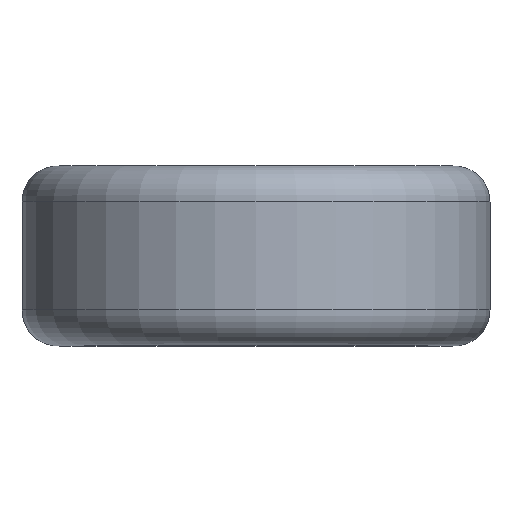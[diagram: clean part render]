
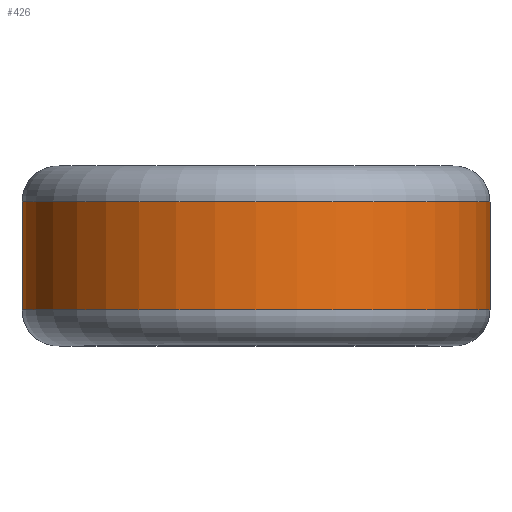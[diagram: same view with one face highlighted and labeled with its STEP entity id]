
A CAD part, top view. The second image highlights one B-rep face of the part: STEP entity #426.
In plain terms, the highlighted cylindrical face has radius 6.5 mm (diameter 13 mm), a full revolution.
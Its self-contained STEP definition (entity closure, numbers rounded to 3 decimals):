
#21=FACE_BOUND('',#104,.T.);
#22=FACE_BOUND('',#105,.T.);
#46=LINE('',#1240,#51);
#51=VECTOR('',#588,6.5);
#60=CYLINDRICAL_SURFACE('',#487,6.5);
#75=FACE_OUTER_BOUND('',#103,.T.);
#103=EDGE_LOOP('',(#329,#330,#331,#332,#333,#334,#335,#336));
#104=EDGE_LOOP('',(#337));
#105=EDGE_LOOP('',(#338));
#138=CIRCLE('',#488,6.5);
#139=CIRCLE('',#489,6.5);
#140=CIRCLE('',#490,6.5);
#141=CIRCLE('',#491,6.5);
#142=CIRCLE('',#492,6.5);
#143=CIRCLE('',#493,6.5);
#170=B_SPLINE_CURVE_WITH_KNOTS('',3,(#852,#853,#854,#855,#856,#857,#858,
#859,#860,#861,#862,#863,#864,#865,#866),.UNSPECIFIED.,.T.,.F.,(4,1,1,1,
1,1,1,1,1,1,1,1,4),(-0.323,-0.303,-0.284,
-0.245,-0.206,-0.187,-0.167,
-0.148,-0.138,-0.133,-0.129,
-0.09,-0.051),.UNSPECIFIED.);
#173=B_SPLINE_CURVE_WITH_KNOTS('',3,(#1247,#1248,#1249,#1250,#1251,#1252,
#1253,#1254,#1255,#1256,#1257,#1258,#1259,#1260,#1261),.UNSPECIFIED.,.T.,
 .F.,(4,1,1,1,1,1,1,1,1,1,1,1,4),(-0.323,-0.303,
-0.284,-0.245,-0.206,-0.187,
-0.167,-0.148,-0.129,-0.109,
-0.09,-0.07,-0.051),
 .UNSPECIFIED.);
#193=VERTEX_POINT('',#829);
#197=VERTEX_POINT('',#1233);
#198=VERTEX_POINT('',#1234);
#199=VERTEX_POINT('',#1236);
#200=VERTEX_POINT('',#1239);
#201=VERTEX_POINT('',#1241);
#202=VERTEX_POINT('',#1243);
#203=VERTEX_POINT('',#1246);
#244=EDGE_CURVE('',#193,#193,#170,.T.);
#247=EDGE_CURVE('',#197,#198,#138,.T.);
#248=EDGE_CURVE('',#199,#197,#139,.T.);
#249=EDGE_CURVE('',#198,#199,#140,.T.);
#250=EDGE_CURVE('',#198,#200,#46,.T.);
#251=EDGE_CURVE('',#201,#200,#141,.T.);
#252=EDGE_CURVE('',#202,#201,#142,.T.);
#253=EDGE_CURVE('',#200,#202,#143,.T.);
#254=EDGE_CURVE('',#203,#203,#173,.T.);
#329=ORIENTED_EDGE('',*,*,#247,.F.);
#330=ORIENTED_EDGE('',*,*,#248,.F.);
#331=ORIENTED_EDGE('',*,*,#249,.F.);
#332=ORIENTED_EDGE('',*,*,#250,.T.);
#333=ORIENTED_EDGE('',*,*,#251,.F.);
#334=ORIENTED_EDGE('',*,*,#252,.F.);
#335=ORIENTED_EDGE('',*,*,#253,.F.);
#336=ORIENTED_EDGE('',*,*,#250,.F.);
#337=ORIENTED_EDGE('',*,*,#254,.F.);
#338=ORIENTED_EDGE('',*,*,#244,.F.);
#426=ADVANCED_FACE('',(#75,#21,#22),#60,.T.);
#487=AXIS2_PLACEMENT_3D('',#1232,#580,#581);
#488=AXIS2_PLACEMENT_3D('',#1235,#582,#583);
#489=AXIS2_PLACEMENT_3D('',#1237,#584,#585);
#490=AXIS2_PLACEMENT_3D('',#1238,#586,#587);
#491=AXIS2_PLACEMENT_3D('',#1242,#589,#590);
#492=AXIS2_PLACEMENT_3D('',#1244,#591,#592);
#493=AXIS2_PLACEMENT_3D('',#1245,#593,#594);
#580=DIRECTION('center_axis',(0.,-1.,0.));
#581=DIRECTION('ref_axis',(1.,0.,0.));
#582=DIRECTION('center_axis',(0.,-1.,0.));
#583=DIRECTION('ref_axis',(-1.,0.,0.));
#584=DIRECTION('center_axis',(0.,-1.,0.));
#585=DIRECTION('ref_axis',(-1.,0.,0.));
#586=DIRECTION('center_axis',(0.,-1.,0.));
#587=DIRECTION('ref_axis',(-1.,0.,0.));
#588=DIRECTION('',(0.,1.,0.));
#589=DIRECTION('center_axis',(0.,1.,0.));
#590=DIRECTION('ref_axis',(-1.,0.,0.));
#591=DIRECTION('center_axis',(0.,1.,0.));
#592=DIRECTION('ref_axis',(-1.,0.,0.));
#593=DIRECTION('center_axis',(0.,1.,0.));
#594=DIRECTION('ref_axis',(-1.,0.,0.));
#829=CARTESIAN_POINT('',(-3.886,0.115,-5.21));
#852=CARTESIAN_POINT('Ctrl Pts',(-3.886,0.115,-5.21));
#853=CARTESIAN_POINT('Ctrl Pts',(-3.964,0.107,-5.152));
#854=CARTESIAN_POINT('Ctrl Pts',(-4.121,0.137,-5.03));
#855=CARTESIAN_POINT('Ctrl Pts',(-4.37,0.378,-4.815));
#856=CARTESIAN_POINT('Ctrl Pts',(-4.48,0.911,-4.708));
#857=CARTESIAN_POINT('Ctrl Pts',(-4.269,1.383,-4.907));
#858=CARTESIAN_POINT('Ctrl Pts',(-3.97,1.51,-5.149));
#859=CARTESIAN_POINT('Ctrl Pts',(-3.73,1.46,-5.325));
#860=CARTESIAN_POINT('Ctrl Pts',(-3.559,1.31,-5.439));
#861=CARTESIAN_POINT('Ctrl Pts',(-3.473,1.166,-5.494));
#862=CARTESIAN_POINT('Ctrl Pts',(-3.436,1.075,-5.517));
#863=CARTESIAN_POINT('Ctrl Pts',(-3.363,0.836,-5.562));
#864=CARTESIAN_POINT('Ctrl Pts',(-3.423,0.367,-5.529));
#865=CARTESIAN_POINT('Ctrl Pts',(-3.73,0.133,-5.327));
#866=CARTESIAN_POINT('Ctrl Pts',(-3.886,0.115,-5.21));
#1232=CARTESIAN_POINT('Origin',(0.,0.,
0.));
#1233=CARTESIAN_POINT('',(6.5,-1.5,0.));
#1234=CARTESIAN_POINT('',(-6.5,-1.5,0.));
#1235=CARTESIAN_POINT('Origin',(0.,-1.5,0.));
#1236=CARTESIAN_POINT('',(0.,-1.5,-6.5));
#1237=CARTESIAN_POINT('Origin',(0.,-1.5,0.));
#1238=CARTESIAN_POINT('Origin',(0.,-1.5,0.));
#1239=CARTESIAN_POINT('',(-6.5,1.5,0.));
#1240=CARTESIAN_POINT('',(-6.5,0.,0.));
#1241=CARTESIAN_POINT('',(6.5,1.5,0.));
#1242=CARTESIAN_POINT('Origin',(0.,1.5,0.));
#1243=CARTESIAN_POINT('',(0.,1.5,6.5));
#1244=CARTESIAN_POINT('Origin',(0.,1.5,0.));
#1245=CARTESIAN_POINT('Origin',(0.,1.5,0.));
#1246=CARTESIAN_POINT('',(3.886,-0.115,-5.21));
#1247=CARTESIAN_POINT('Ctrl Pts',(3.886,-0.115,-5.21));
#1248=CARTESIAN_POINT('Ctrl Pts',(3.964,-0.107,-5.152));
#1249=CARTESIAN_POINT('Ctrl Pts',(4.121,-0.137,-5.03));
#1250=CARTESIAN_POINT('Ctrl Pts',(4.37,-0.378,-4.815));
#1251=CARTESIAN_POINT('Ctrl Pts',(4.482,-0.912,-4.707));
#1252=CARTESIAN_POINT('Ctrl Pts',(4.269,-1.382,-4.908));
#1253=CARTESIAN_POINT('Ctrl Pts',(3.97,-1.509,-5.15));
#1254=CARTESIAN_POINT('Ctrl Pts',(3.73,-1.46,-5.326));
#1255=CARTESIAN_POINT('Ctrl Pts',(3.525,-1.28,-5.462));
#1256=CARTESIAN_POINT('Ctrl Pts',(3.398,-1.009,-5.541));
#1257=CARTESIAN_POINT('Ctrl Pts',(3.378,-0.697,-5.553));
#1258=CARTESIAN_POINT('Ctrl Pts',(3.471,-0.406,-5.497));
#1259=CARTESIAN_POINT('Ctrl Pts',(3.653,-0.19,-5.379));
#1260=CARTESIAN_POINT('Ctrl Pts',(3.808,-0.124,-5.269));
#1261=CARTESIAN_POINT('Ctrl Pts',(3.886,-0.115,-5.21));
